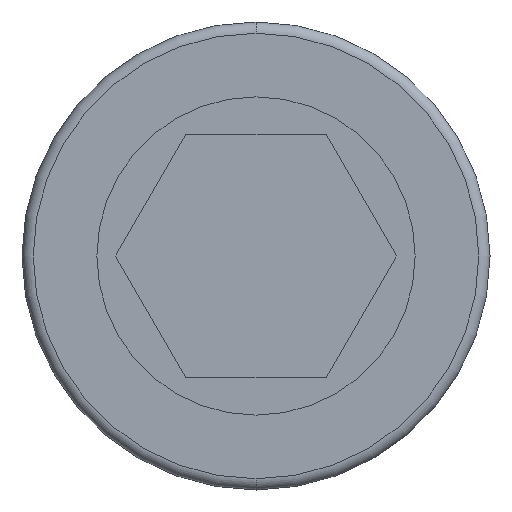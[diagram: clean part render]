
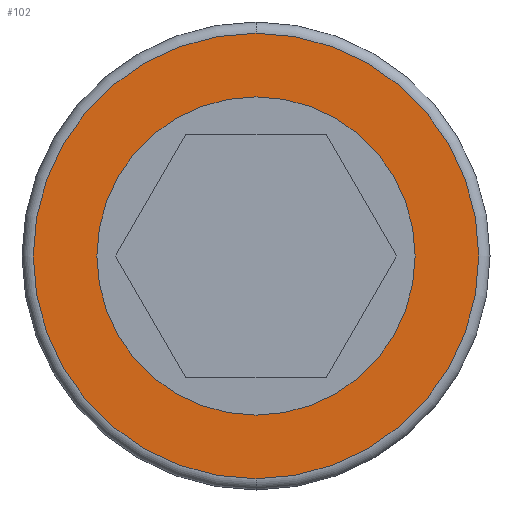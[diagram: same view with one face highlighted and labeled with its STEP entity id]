
A CAD part, front view. The second image highlights one B-rep face of the part: STEP entity #102.
In plain terms, the highlighted planar face has unit normal (0, -1, 0).
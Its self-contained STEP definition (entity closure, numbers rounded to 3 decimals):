
#102=ADVANCED_FACE('',(#183,#184),#185,.T.);
#183=FACE_OUTER_BOUND('',#330,.T.);
#184=FACE_BOUND('',#331,.T.);
#185=PLANE('',#332);
#330=EDGE_LOOP('',(#532,#533));
#331=EDGE_LOOP('',(#534,#535));
#332=AXIS2_PLACEMENT_3D('',#536,#537,#538);
#532=ORIENTED_EDGE('',*,*,#984,.T.);
#533=ORIENTED_EDGE('',*,*,#992,.T.);
#534=ORIENTED_EDGE('',*,*,#991,.F.);
#535=ORIENTED_EDGE('',*,*,#988,.F.);
#536=CARTESIAN_POINT('',(0.,2.8,-5.75));
#537=DIRECTION('',(0.,-1.0,0.));
#538=DIRECTION('',(-1.0,0.,0.));
#984=EDGE_CURVE('',#1149,#1147,#1150,.T.);
#988=EDGE_CURVE('',#1155,#1157,#1158,.T.);
#991=EDGE_CURVE('',#1157,#1155,#1161,.T.);
#992=EDGE_CURVE('',#1147,#1149,#1162,.T.);
#1147=VERTEX_POINT('',#1393);
#1149=VERTEX_POINT('',#1395);
#1150=CIRCLE('',#1396,11.9);
#1155=VERTEX_POINT('',#1401);
#1157=VERTEX_POINT('',#1404);
#1158=CIRCLE('',#1405,5.75);
#1161=CIRCLE('',#1409,5.75);
#1162=CIRCLE('',#1410,11.9);
#1393=CARTESIAN_POINT('',(0.,2.8,11.9));
#1395=CARTESIAN_POINT('',(0.,2.8,-11.9));
#1396=AXIS2_PLACEMENT_3D('',#1778,#1779,#1780);
#1401=CARTESIAN_POINT('',(0.,2.8,5.75));
#1404=CARTESIAN_POINT('',(0.,2.8,-5.75));
#1405=AXIS2_PLACEMENT_3D('',#1788,#1789,#1790);
#1409=AXIS2_PLACEMENT_3D('',#1795,#1796,#1797);
#1410=AXIS2_PLACEMENT_3D('',#1798,#1799,#1800);
#1778=CARTESIAN_POINT('',(0.,2.8,0.));
#1779=DIRECTION('',(0.,-1.0,0.));
#1780=DIRECTION('',(0.,0.,-1.0));
#1788=CARTESIAN_POINT('',(0.,2.8,0.));
#1789=DIRECTION('',(0.,-1.0,0.));
#1790=DIRECTION('',(0.,0.,-1.0));
#1795=CARTESIAN_POINT('',(0.,2.8,0.));
#1796=DIRECTION('',(0.,-1.0,0.));
#1797=DIRECTION('',(0.,0.,-1.0));
#1798=CARTESIAN_POINT('',(0.,2.8,0.));
#1799=DIRECTION('',(0.,-1.0,0.));
#1800=DIRECTION('',(0.,0.,-1.0));
